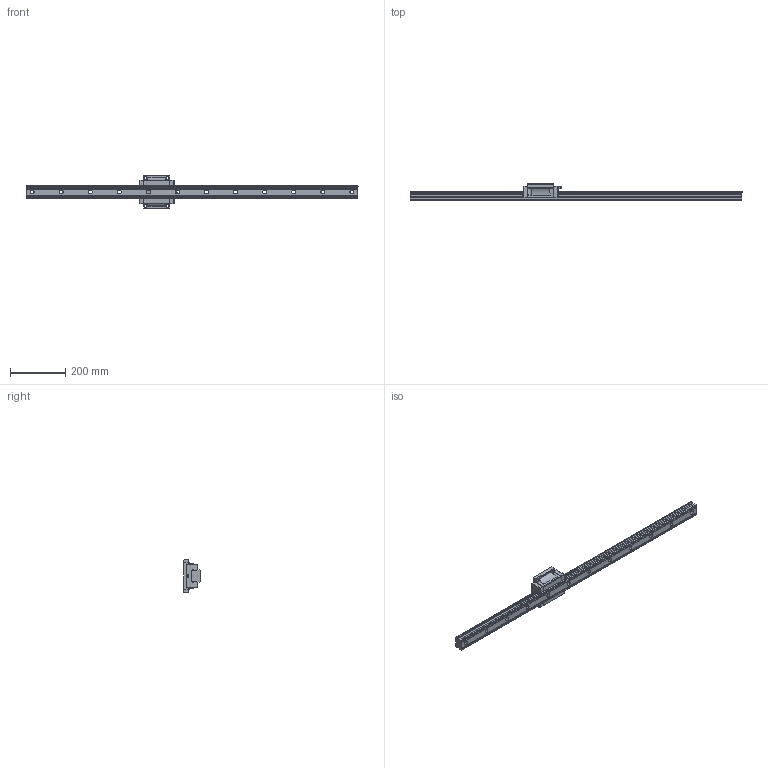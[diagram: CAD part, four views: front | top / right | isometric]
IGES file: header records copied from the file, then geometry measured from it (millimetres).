
Start section: SolidWorks IGES file using analytic representation for surfaces
Global section: file name: C:\Users\tsuch\OneDrive\デスクトップ\EG45関連修正(3D)\EGH45F.IGS; native system: SolidWorks 2019; preprocessor: SolidWorks 2019; author: tsuch; date: 210706.174001; units: millimetre
Bounding box: 1200 x 60 x 120 mm (x, y, z)
Surface area: 281945.1 mm2 (no closed solid volume)
Topology: 0 solids, 0 shells, 393 faces, 5279 edges, 5279 vertices
Faces by surface type: bspline 205, revolution 188
